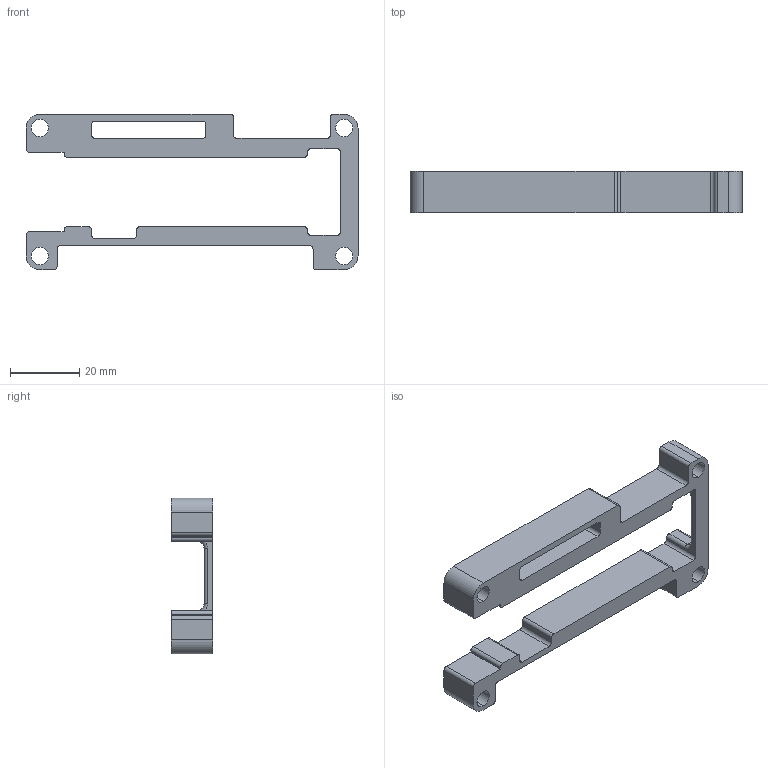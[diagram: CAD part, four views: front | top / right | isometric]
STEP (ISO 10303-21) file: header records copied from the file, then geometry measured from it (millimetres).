
FILE_DESCRIPTION (( 'STEP AP203' ), '1' );
FILE_NAME ('IPFB-USBADDON-MOUNT-TOP.STEP', '2023-09-09T00:59:55', ( '' ), ( '' ), 'SwSTEP 2.0', 'SolidWorks 2022', '' );
FILE_SCHEMA (( 'CONFIG_CONTROL_DESIGN' ));
Length unit declared in the file: millimetre
Products named in the file (1): IPFB-USBADDON-MOUNT-TOP
Bounding box: 96 x 12 x 45 mm (x, y, z)
Volume: 15870.8 mm3; surface area: 10039.8 mm2
Topology: 1 solids, 1 shells, 88 faces, 250 edges, 164 vertices
Faces by surface type: cylinder 46, plane 38, torus 4
Entity records: 2983 total; most frequent: DIRECTION 524, CARTESIAN_POINT 503, ORIENTED_EDGE 500, EDGE_CURVE 250, AXIS2_PLACEMENT_3D 185, VERTEX_POINT 164, LINE 154, VECTOR 154
